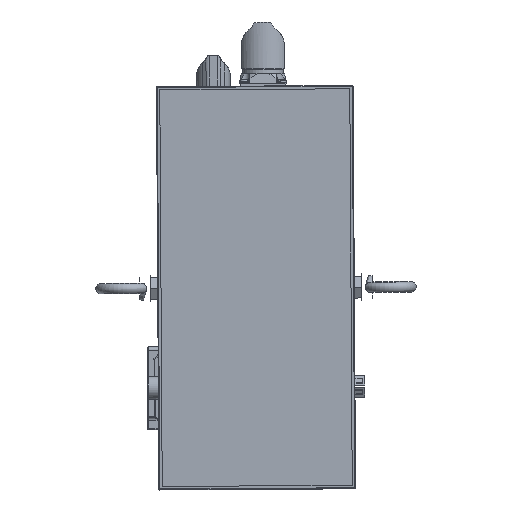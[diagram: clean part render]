
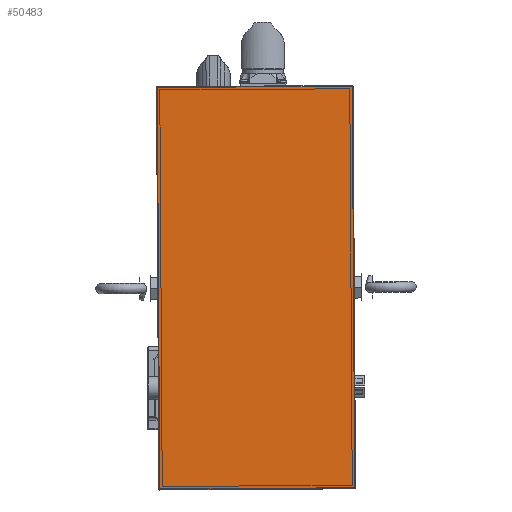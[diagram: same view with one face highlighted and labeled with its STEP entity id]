
A CAD part, top view. The second image highlights one B-rep face of the part: STEP entity #50483.
In plain terms, the highlighted planar face has unit normal (0, 0, 1).
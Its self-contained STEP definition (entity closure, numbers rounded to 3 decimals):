
#2181=PLANE('',#54687);
#6845=FACE_OUTER_BOUND('',#9844,.T.);
#9844=EDGE_LOOP('',(#39941,#39942,#39943,#39944));
#15892=LINE('',#81017,#19599);
#15893=LINE('',#81019,#19600);
#15894=LINE('',#81021,#19601);
#15895=LINE('',#81022,#19602);
#19599=VECTOR('',#64150,10.);
#19600=VECTOR('',#64151,10.);
#19601=VECTOR('',#64152,10.);
#19602=VECTOR('',#64153,10.);
#24106=VERTEX_POINT('',#81015);
#24107=VERTEX_POINT('',#81016);
#24108=VERTEX_POINT('',#81018);
#24109=VERTEX_POINT('',#81020);
#29866=EDGE_CURVE('',#24106,#24107,#15892,.T.);
#29867=EDGE_CURVE('',#24108,#24106,#15893,.T.);
#29868=EDGE_CURVE('',#24109,#24108,#15894,.T.);
#29869=EDGE_CURVE('',#24107,#24109,#15895,.T.);
#39941=ORIENTED_EDGE('',*,*,#29866,.F.);
#39942=ORIENTED_EDGE('',*,*,#29867,.F.);
#39943=ORIENTED_EDGE('',*,*,#29868,.F.);
#39944=ORIENTED_EDGE('',*,*,#29869,.F.);
#50483=ADVANCED_FACE('',(#6845),#2181,.T.);
#54687=AXIS2_PLACEMENT_3D('',#81014,#64148,#64149);
#64148=DIRECTION('center_axis',(0.,0.,
1.));
#64149=DIRECTION('ref_axis',(0.006,-1.,0.));
#64150=DIRECTION('',(-0.006,1.,0.));
#64151=DIRECTION('',(-1.,-0.006,0.));
#64152=DIRECTION('',(0.006,-1.,0.));
#64153=DIRECTION('',(1.,0.006,0.));
#81014=CARTESIAN_POINT('Origin',(57.867,-59.646,623.));
#81015=CARTESIAN_POINT('',(-58.622,-61.861,623.));
#81016=CARTESIAN_POINT('',(-60.112,181.135,623.));
#81017=CARTESIAN_POINT('',(-58.631,-60.361,623.));
#81018=CARTESIAN_POINT('',(59.376,-61.137,623.));
#81019=CARTESIAN_POINT('',(29.127,-61.322,623.));
#81020=CARTESIAN_POINT('',(57.886,181.858,623.));
#81021=CARTESIAN_POINT('',(59.367,-59.637,623.));
#81022=CARTESIAN_POINT('',(27.636,181.673,623.));
